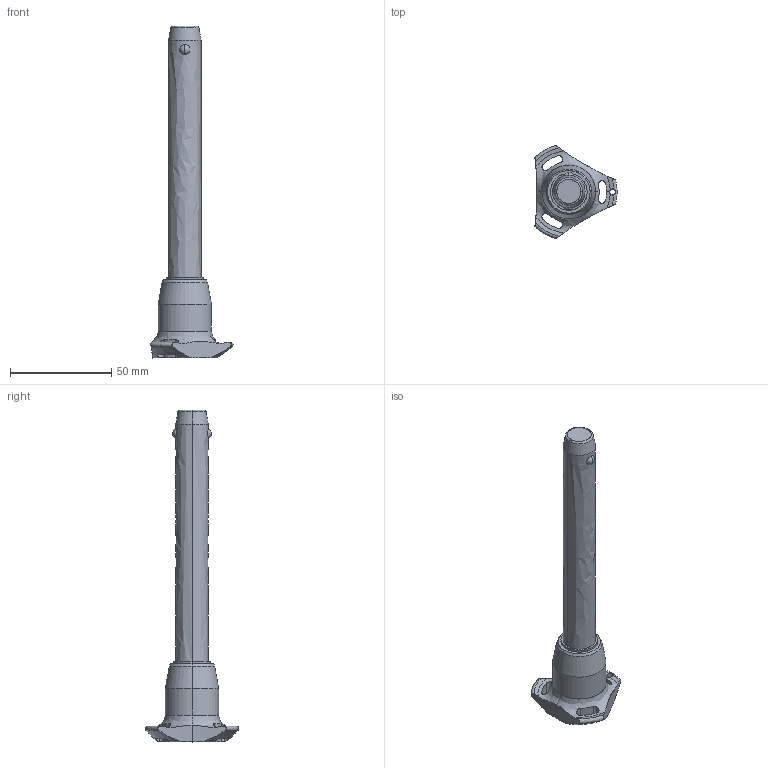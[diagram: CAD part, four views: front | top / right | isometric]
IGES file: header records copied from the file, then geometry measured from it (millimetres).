
Start section: SolidWorks IGES file using analytic representation for surfaces
Global section: file name: C:\Users\ianosborn\Desktop\QR1704_v2\QR1704_v2_20251111_IGES\QR1704.M16-110-S.igs; native system: SolidWorks 2019; preprocessor: SolidWorks 2019; author: IanOsborn; date: 251112.093156; units: millimetre
Bounding box: 40.5 x 45.88 x 163.7 mm (x, y, z)
Surface area: 12187.7 mm2 (no closed solid volume)
Topology: 0 solids, 0 shells, 65 faces, 1379 edges, 1375 vertices
Faces by surface type: revolution 50, bspline 15
